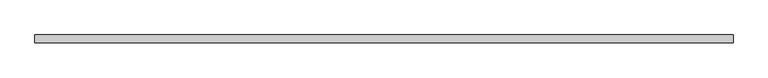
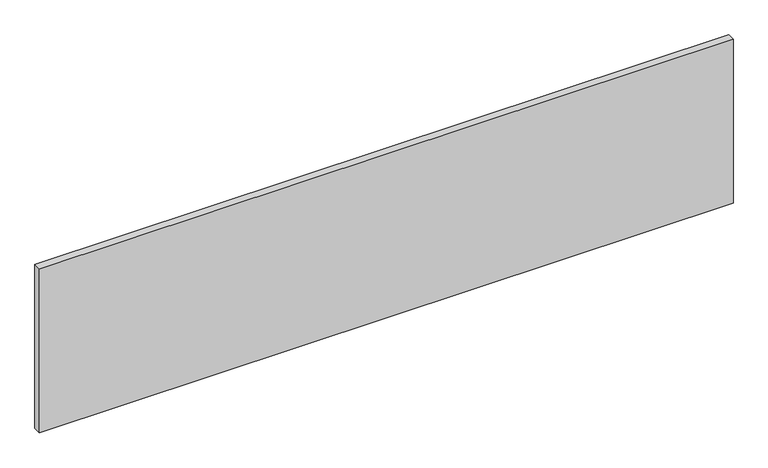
"""IFC4 building model written with IfcOpenShell, lengths in millimetres: proxy geometry, GM_Панель фасадная : Декоративные перемычки."""

from ifc_helpers import new_model, si_unit, origin, origin_with_axes, place, context, project, spatial, polyline, outline, extrude, source, transform, mapped, element, save


def generic_models_5ce5190e(model_context):
    return source(origin(), model_context, "Body", "SweptSolid", [
        extrude(outline(polyline([(-1675.0, 125.0), (125.0, 125.0), (125.0, 105.0), (-1675.0, 105.0), (-1675.0, 125.0)])), origin_with_axes(), (0.0, 0.0, 1.0), 450.0),
    ])


if __name__ == "__main__":
    model = new_model("IFC4")
    model_context = context("Model", 3, world=origin())
    ifc_project = project(units=[si_unit("LENGTHUNIT", "METRE", prefix="MILLI")], contexts=[model_context])
    site = spatial("IfcSite", under=ifc_project)
    building = spatial("IfcBuilding", under=site)
    placement = place(None, origin())
    generic_models_shape = generic_models_5ce5190e(model_context)
    element("IfcBuildingElementProxy", 1, Name="GM_Панель фасадная : Декоративные перемычки", ObjectType="GM_Панель фасадная : Декоративные перемычки", at=placement, inside=building, context=model_context, shape_type="MappedRepresentation", body=[
        mapped(generic_models_shape, transform((0.0, 0.0, 0.0), x_axis=(1.0, 0.0, 0.0), y_axis=(0.0, 1.0, 0.0), z_axis=(0.0, 0.0, 1.0))),
    ])
    save(model, "model.ifc")
